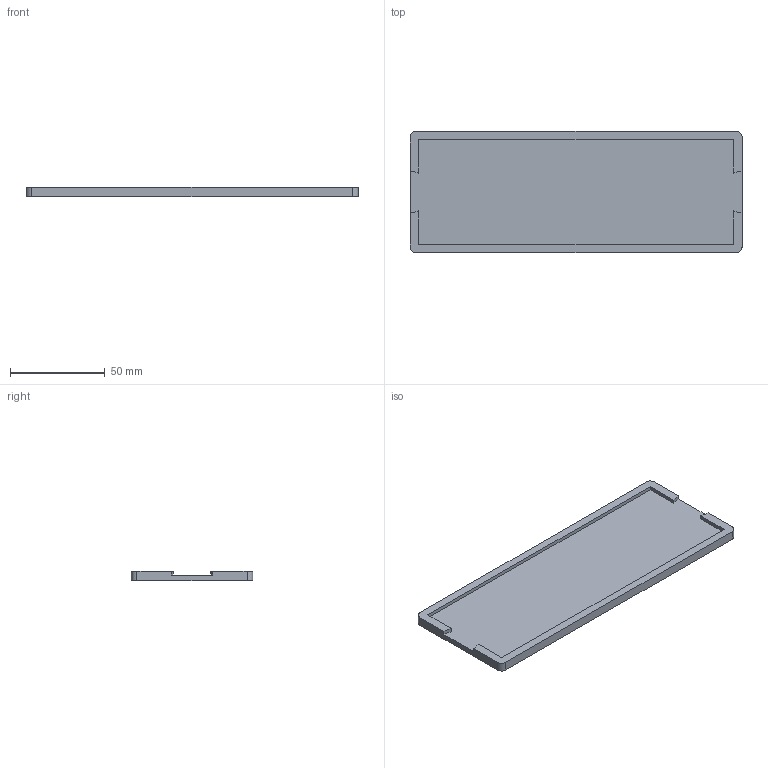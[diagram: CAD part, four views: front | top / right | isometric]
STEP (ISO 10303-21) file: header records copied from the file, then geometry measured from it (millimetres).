
FILE_DESCRIPTION(('Open CASCADE Model'),'2;1');
FILE_NAME('Open CASCADE Shape Model','2026-09-29T12:47:59',('Author'),( 'Open CASCADE'),'Open CASCADE STEP processor 7.9','Open CASCADE 7.9' ,'Unknown');
FILE_SCHEMA(('AUTOMOTIVE_DESIGN { 1 0 10303 214 1 1 1 1 }'));
Length unit declared in the file: millimetre
Products named in the file (1): Open CASCADE STEP translator 7.9 1
Bounding box: 175 x 64 x 5 mm (x, y, z)
Volume: 37271.4 mm3; surface area: 25503.1 mm2
Topology: 1 solids, 1 shells, 22 faces, 60 edges, 40 vertices
Faces by surface type: plane 14, cylinder 8
Entity records: 1484 total; most frequent: CARTESIAN_POINT 321, DIRECTION 204, ORIENTED_EDGE 120, PCURVE 120, DEFINITIONAL_REPRESENTATION 120, LINE 118, VECTOR 118, EDGE_CURVE 60
